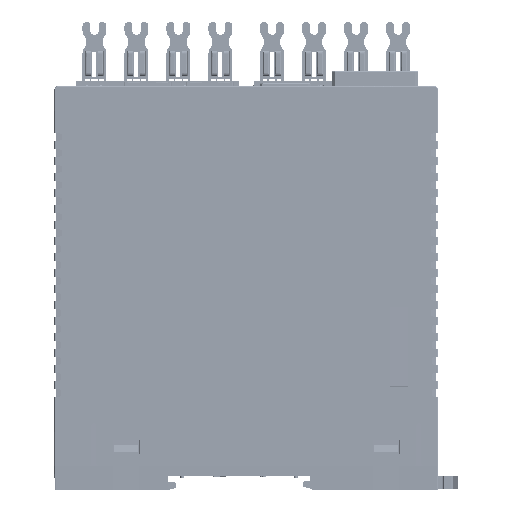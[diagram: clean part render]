
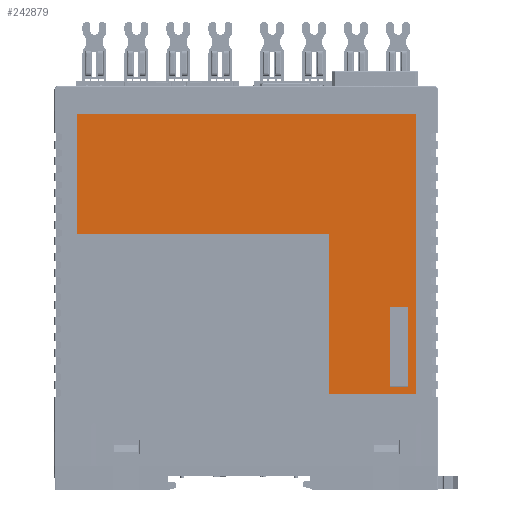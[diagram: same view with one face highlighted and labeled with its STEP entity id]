
A CAD part, left-side view. The second image highlights one B-rep face of the part: STEP entity #242879.
In plain terms, the highlighted planar face has unit normal (-1, 0, 0).
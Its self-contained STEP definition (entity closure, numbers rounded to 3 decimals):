
#1153 = CARTESIAN_POINT ( 'NONE',  ( -35.9, -35.9, 39.8 ) ) ;
#1441 = CARTESIAN_POINT ( 'NONE',  ( -35.9, -40.4, 19.8 ) ) ;
#6448 = LINE ( 'NONE', #284187, #184568 ) ;
#10626 = CARTESIAN_POINT ( 'NONE',  ( -35.9, 42.4, 18. ) ) ;
#17851 = DIRECTION ( 'NONE',  ( -1., 0., 0. ) ) ;
#17899 = ORIENTED_EDGE ( 'NONE', *, *, #190432, .T. ) ;
#19962 = VERTEX_POINT ( 'NONE', #95384 ) ;
#27024 = CARTESIAN_POINT ( 'NONE',  ( -35.9, -42.4, 18. ) ) ;
#30803 = VECTOR ( 'NONE', #220432, 1000. ) ;
#49125 = CARTESIAN_POINT ( 'NONE',  ( -35.9, 42.4, 88. ) ) ;
#59179 = ORIENTED_EDGE ( 'NONE', *, *, #60391, .F. ) ;
#60391 = EDGE_CURVE ( 'NONE', #197171, #287243, #265213, .T. ) ;
#62045 = CARTESIAN_POINT ( 'NONE',  ( -35.9, -20.61, 58.01 ) ) ;
#63092 = VECTOR ( 'NONE', #64779, 1000. ) ;
#64779 = DIRECTION ( 'NONE',  ( 0., -1., 0. ) ) ;
#67485 = EDGE_CURVE ( 'NONE', #90922, #296812, #6448, .T. ) ;
#69243 = ORIENTED_EDGE ( 'NONE', *, *, #100844, .T. ) ;
#72663 = VECTOR ( 'NONE', #285710, 1000. ) ;
#75939 = VECTOR ( 'NONE', #309225, 1000. ) ;
#78002 = EDGE_LOOP ( 'NONE', ( #304939, #17899, #201293, #69243 ) ) ;
#90922 = VERTEX_POINT ( 'NONE', #135224 ) ;
#94114 = LINE ( 'NONE', #10626, #215423 ) ;
#94863 = EDGE_CURVE ( 'NONE', #244119, #196241, #269378, .T. ) ;
#95384 = CARTESIAN_POINT ( 'NONE',  ( -35.9, -20.61, 18.01 ) ) ;
#95763 = LINE ( 'NONE', #188432, #281588 ) ;
#100844 = EDGE_CURVE ( 'NONE', #196241, #238633, #192007, .T. ) ;
#111234 = FACE_BOUND ( 'NONE', #163203, .T. ) ;
#116508 = CARTESIAN_POINT ( 'NONE',  ( -35.9, 42.39, 58.01 ) ) ;
#119408 = LINE ( 'NONE', #173101, #176215 ) ;
#123969 = CARTESIAN_POINT ( 'NONE',  ( -35.9, -35.9, 19.8 ) ) ;
#129043 = EDGE_CURVE ( 'NONE', #287243, #209439, #119408, .T. ) ;
#132079 = AXIS2_PLACEMENT_3D ( 'NONE', #235199, #17851, #187359 ) ;
#133950 = CARTESIAN_POINT ( 'NONE',  ( -35.9, -35.9, 19.8 ) ) ;
#135224 = CARTESIAN_POINT ( 'NONE',  ( -35.9, -42.4, 88. ) ) ;
#148683 = VERTEX_POINT ( 'NONE', #27024 ) ;
#150678 = CARTESIAN_POINT ( 'NONE',  ( -35.9, -42.4, 18. ) ) ;
#152566 = ORIENTED_EDGE ( 'NONE', *, *, #300123, .F. ) ;
#153360 = EDGE_CURVE ( 'NONE', #296812, #160372, #231023, .T. ) ;
#155285 = VECTOR ( 'NONE', #262515, 1000. ) ;
#160372 = VERTEX_POINT ( 'NONE', #312671 ) ;
#163077 = PLANE ( 'NONE',  #132079 ) ;
#163203 = EDGE_LOOP ( 'NONE', ( #235723, #252674, #59179, #152566 ) ) ;
#166135 = VECTOR ( 'NONE', #248214, 1000. ) ;
#166461 = VECTOR ( 'NONE', #213529, 1000. ) ;
#168042 = FACE_BOUND ( 'NONE', #78002, .T. ) ;
#173101 = CARTESIAN_POINT ( 'NONE',  ( -35.9, -35.9, 19.8 ) ) ;
#176215 = VECTOR ( 'NONE', #222938, 1000. ) ;
#184568 = VECTOR ( 'NONE', #307510, 1000. ) ;
#187359 = DIRECTION ( 'NONE',  ( 0., 0., 1. ) ) ;
#188432 = CARTESIAN_POINT ( 'NONE',  ( -35.9, -20.61, 58.01 ) ) ;
#190432 = EDGE_CURVE ( 'NONE', #19962, #244119, #219691, .T. ) ;
#192007 = LINE ( 'NONE', #283133, #63092 ) ;
#193914 = LINE ( 'NONE', #261307, #72663 ) ;
#194564 = EDGE_CURVE ( 'NONE', #160372, #148683, #94114, .T. ) ;
#195511 = CARTESIAN_POINT ( 'NONE',  ( -35.9, 42.39, 18.01 ) ) ;
#196241 = VERTEX_POINT ( 'NONE', #116508 ) ;
#197171 = VERTEX_POINT ( 'NONE', #305870 ) ;
#200660 = VECTOR ( 'NONE', #268271, 1000. ) ;
#201293 = ORIENTED_EDGE ( 'NONE', *, *, #94863, .T. ) ;
#204540 = DIRECTION ( 'NONE',  ( 0., -1., 0. ) ) ;
#209048 = LINE ( 'NONE', #123969, #30803 ) ;
#209439 = VERTEX_POINT ( 'NONE', #133950 ) ;
#212477 = CARTESIAN_POINT ( 'NONE',  ( -35.9, 42.4, 88. ) ) ;
#212914 = DIRECTION ( 'NONE',  ( 0., 0., -1. ) ) ;
#213529 = DIRECTION ( 'NONE',  ( 0., 0., -1. ) ) ;
#215423 = VECTOR ( 'NONE', #204540, 1000. ) ;
#219691 = LINE ( 'NONE', #238131, #155285 ) ;
#220432 = DIRECTION ( 'NONE',  ( 0., -1., 0. ) ) ;
#222938 = DIRECTION ( 'NONE',  ( 0., 0., -1. ) ) ;
#223180 = CARTESIAN_POINT ( 'NONE',  ( -35.9, -35.9, 39.8 ) ) ;
#227248 = EDGE_CURVE ( 'NONE', #148683, #90922, #245916, .T. ) ;
#231023 = LINE ( 'NONE', #212477, #166461 ) ;
#235199 = CARTESIAN_POINT ( 'NONE',  ( -35.9, 0., 0. ) ) ;
#235723 = ORIENTED_EDGE ( 'NONE', *, *, #263261, .F. ) ;
#238131 = CARTESIAN_POINT ( 'NONE',  ( -35.9, 42.39, 18.01 ) ) ;
#238633 = VERTEX_POINT ( 'NONE', #62045 ) ;
#242879 = ADVANCED_FACE ( 'NONE', ( #289493, #111234, #168042 ), #163077, .T. ) ;
#244119 = VERTEX_POINT ( 'NONE', #195511 ) ;
#245916 = LINE ( 'NONE', #150678, #166135 ) ;
#248214 = DIRECTION ( 'NONE',  ( 0., 0., 1. ) ) ;
#252674 = ORIENTED_EDGE ( 'NONE', *, *, #129043, .F. ) ;
#257584 = VERTEX_POINT ( 'NONE', #1441 ) ;
#260532 = CARTESIAN_POINT ( 'NONE',  ( -35.9, 42.39, 58.01 ) ) ;
#261307 = CARTESIAN_POINT ( 'NONE',  ( -35.9, -40.4, 19.8 ) ) ;
#262515 = DIRECTION ( 'NONE',  ( 0., 1., 0. ) ) ;
#263261 = EDGE_CURVE ( 'NONE', #209439, #257584, #209048, .T. ) ;
#263775 = ORIENTED_EDGE ( 'NONE', *, *, #194564, .T. ) ;
#265213 = LINE ( 'NONE', #1153, #200660 ) ;
#268271 = DIRECTION ( 'NONE',  ( 0., 1., 0. ) ) ;
#269086 = ORIENTED_EDGE ( 'NONE', *, *, #227248, .T. ) ;
#269378 = LINE ( 'NONE', #260532, #75939 ) ;
#277115 = ORIENTED_EDGE ( 'NONE', *, *, #153360, .T. ) ;
#281588 = VECTOR ( 'NONE', #212914, 1000. ) ;
#283133 = CARTESIAN_POINT ( 'NONE',  ( -35.9, 42.39, 58.01 ) ) ;
#284187 = CARTESIAN_POINT ( 'NONE',  ( -35.9, -42.4, 88. ) ) ;
#285710 = DIRECTION ( 'NONE',  ( 0., 0., 1. ) ) ;
#287243 = VERTEX_POINT ( 'NONE', #223180 ) ;
#289493 = FACE_OUTER_BOUND ( 'NONE', #298528, .T. ) ;
#296812 = VERTEX_POINT ( 'NONE', #49125 ) ;
#298438 = ORIENTED_EDGE ( 'NONE', *, *, #67485, .T. ) ;
#298528 = EDGE_LOOP ( 'NONE', ( #277115, #263775, #269086, #298438 ) ) ;
#299527 = EDGE_CURVE ( 'NONE', #238633, #19962, #95763, .T. ) ;
#300123 = EDGE_CURVE ( 'NONE', #257584, #197171, #193914, .T. ) ;
#304939 = ORIENTED_EDGE ( 'NONE', *, *, #299527, .T. ) ;
#305870 = CARTESIAN_POINT ( 'NONE',  ( -35.9, -40.4, 39.8 ) ) ;
#307510 = DIRECTION ( 'NONE',  ( 0., 1., 0. ) ) ;
#309225 = DIRECTION ( 'NONE',  ( 0., 0., 1. ) ) ;
#312671 = CARTESIAN_POINT ( 'NONE',  ( -35.9, 42.4, 18. ) ) ;
